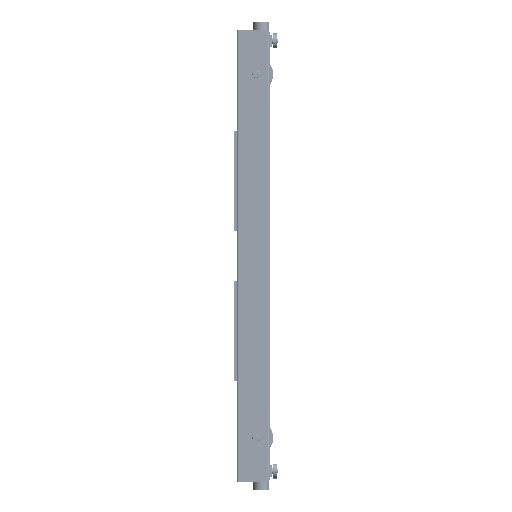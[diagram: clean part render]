
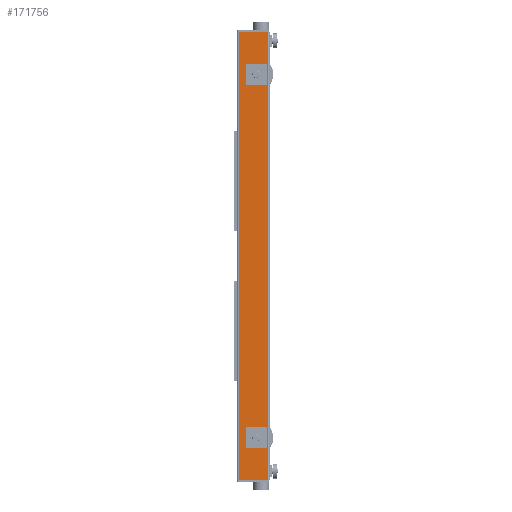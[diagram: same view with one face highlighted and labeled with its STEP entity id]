
A CAD part, left-side view. The second image highlights one B-rep face of the part: STEP entity #171756.
In plain terms, the highlighted planar face has unit normal (-1, 0, 0).
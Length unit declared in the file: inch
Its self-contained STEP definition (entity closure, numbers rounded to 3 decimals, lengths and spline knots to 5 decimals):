
#5124 = DIRECTION ( 'NONE',  ( 0., 1., 0. ) ) ;
#9245 = CIRCLE ( 'NONE', #104081, 0.886 ) ;
#10190 = VECTOR ( 'NONE', #168200, 39.37008 ) ;
#12094 = DIRECTION ( 'NONE',  ( 1., 0., 0. ) ) ;
#12142 = CARTESIAN_POINT ( 'NONE',  ( 0., 7.5, -53.71875 ) ) ;
#17683 = DIRECTION ( 'NONE',  ( 1., 0., 0. ) ) ;
#20073 = CARTESIAN_POINT ( 'NONE',  ( 0., 3.335, -43.49975 ) ) ;
#20726 = LINE ( 'NONE', #135683, #10190 ) ;
#21098 = ORIENTED_EDGE ( 'NONE', *, *, #39780, .T. ) ;
#22362 = DIRECTION ( 'NONE',  ( 0., 1., 0. ) ) ;
#22447 = VERTEX_POINT ( 'NONE', #189027 ) ;
#26988 = DIRECTION ( 'NONE',  ( 0., -1., 0. ) ) ;
#32001 = FACE_BOUND ( 'NONE', #126254, .T. ) ;
#33028 = CARTESIAN_POINT ( 'NONE',  ( 0., 3.335, 43.50075 ) ) ;
#38326 = CIRCLE ( 'NONE', #62780, 0.886 ) ;
#39780 = EDGE_CURVE ( 'NONE', #139356, #103491, #124187, .T. ) ;
#41830 = DIRECTION ( 'NONE',  ( 0., 1., 0. ) ) ;
#47339 = FACE_OUTER_BOUND ( 'NONE', #93374, .T. ) ;
#48298 = DIRECTION ( 'NONE',  ( 1., 0., 0. ) ) ;
#49064 = VECTOR ( 'NONE', #135744, 39.37008 ) ;
#50772 = VERTEX_POINT ( 'NONE', #103265 ) ;
#59323 = CARTESIAN_POINT ( 'NONE',  ( 0., 7.5, 53.71875 ) ) ;
#60269 = DIRECTION ( 'NONE',  ( 0., 0., -1. ) ) ;
#61201 = CARTESIAN_POINT ( 'NONE',  ( 0., 7.5, 53.71875 ) ) ;
#61673 = PLANE ( 'NONE',  #138771 ) ;
#62780 = AXIS2_PLACEMENT_3D ( 'NONE', #20073, #123538, #122604 ) ;
#63525 = ORIENTED_EDGE ( 'NONE', *, *, #184606, .T. ) ;
#63888 = CARTESIAN_POINT ( 'NONE',  ( 0., 3.335, -44.38575 ) ) ;
#73739 = LINE ( 'NONE', #61201, #158944 ) ;
#74768 = EDGE_CURVE ( 'NONE', #134100, #130265, #73739, .T. ) ;
#79786 = ORIENTED_EDGE ( 'NONE', *, *, #128891, .T. ) ;
#80468 = ORIENTED_EDGE ( 'NONE', *, *, #74768, .T. ) ;
#84566 = VERTEX_POINT ( 'NONE', #168369 ) ;
#89657 = ORIENTED_EDGE ( 'NONE', *, *, #147934, .T. ) ;
#93374 = EDGE_LOOP ( 'NONE', ( #63525, #154208, #115183, #80468 ) ) ;
#97902 = CARTESIAN_POINT ( 'NONE',  ( 0., 0.5, 53.71875 ) ) ;
#102870 = EDGE_CURVE ( 'NONE', #84566, #22447, #20726, .T. ) ;
#103265 = CARTESIAN_POINT ( 'NONE',  ( 0., 3.335, 44.38675 ) ) ;
#103491 = VERTEX_POINT ( 'NONE', #63888 ) ;
#104081 = AXIS2_PLACEMENT_3D ( 'NONE', #33028, #17683, #177618 ) ;
#104818 = CARTESIAN_POINT ( 'NONE',  ( 0., 0.5, 53.71875 ) ) ;
#109610 = CARTESIAN_POINT ( 'NONE',  ( 0., 3.335, -43.49975 ) ) ;
#113342 = EDGE_LOOP ( 'NONE', ( #79786, #21098 ) ) ;
#115183 = ORIENTED_EDGE ( 'NONE', *, *, #144594, .F. ) ;
#118038 = AXIS2_PLACEMENT_3D ( 'NONE', #109610, #167982, #22362 ) ;
#118676 = CIRCLE ( 'NONE', #170698, 0.886 ) ;
#122604 = DIRECTION ( 'NONE',  ( 0., 1., 0. ) ) ;
#123015 = VERTEX_POINT ( 'NONE', #182288 ) ;
#123538 = DIRECTION ( 'NONE',  ( 1., 0., 0. ) ) ;
#124187 = CIRCLE ( 'NONE', #118038, 0.886 ) ;
#126254 = EDGE_LOOP ( 'NONE', ( #178216, #89657 ) ) ;
#128891 = EDGE_CURVE ( 'NONE', #103491, #139356, #38326, .T. ) ;
#130265 = VERTEX_POINT ( 'NONE', #12142 ) ;
#134100 = VERTEX_POINT ( 'NONE', #59323 ) ;
#135683 = CARTESIAN_POINT ( 'NONE',  ( 0., 0.5, 53.71875 ) ) ;
#135744 = DIRECTION ( 'NONE',  ( 0., -1., 0. ) ) ;
#138771 = AXIS2_PLACEMENT_3D ( 'NONE', #104818, #48298, #5124 ) ;
#139356 = VERTEX_POINT ( 'NONE', #180461 ) ;
#139422 = EDGE_CURVE ( 'NONE', #123015, #50772, #9245, .T. ) ;
#140484 = CARTESIAN_POINT ( 'NONE',  ( 0., 3.335, 43.50075 ) ) ;
#144594 = EDGE_CURVE ( 'NONE', #134100, #84566, #170671, .T. ) ;
#147934 = EDGE_CURVE ( 'NONE', #50772, #123015, #118676, .T. ) ;
#148231 = CARTESIAN_POINT ( 'NONE',  ( 0., 0.5, -53.71875 ) ) ;
#148821 = FACE_BOUND ( 'NONE', #113342, .T. ) ;
#154208 = ORIENTED_EDGE ( 'NONE', *, *, #102870, .F. ) ;
#158944 = VECTOR ( 'NONE', #60269, 39.37008 ) ;
#167982 = DIRECTION ( 'NONE',  ( 1., 0., 0. ) ) ;
#168200 = DIRECTION ( 'NONE',  ( 0., 0., -1. ) ) ;
#168369 = CARTESIAN_POINT ( 'NONE',  ( 0., 0.5, 53.71875 ) ) ;
#170671 = LINE ( 'NONE', #97902, #185637 ) ;
#170698 = AXIS2_PLACEMENT_3D ( 'NONE', #140484, #12094, #41830 ) ;
#171756 = ADVANCED_FACE ( 'NONE', ( #148821, #32001, #47339 ), #61673, .F. ) ;
#177618 = DIRECTION ( 'NONE',  ( 0., 1., 0. ) ) ;
#177909 = LINE ( 'NONE', #148231, #49064 ) ;
#178216 = ORIENTED_EDGE ( 'NONE', *, *, #139422, .T. ) ;
#180461 = CARTESIAN_POINT ( 'NONE',  ( 0., 3.335, -42.61375 ) ) ;
#182288 = CARTESIAN_POINT ( 'NONE',  ( 0., 3.335, 42.61475 ) ) ;
#184606 = EDGE_CURVE ( 'NONE', #130265, #22447, #177909, .T. ) ;
#185637 = VECTOR ( 'NONE', #26988, 39.37008 ) ;
#189027 = CARTESIAN_POINT ( 'NONE',  ( 0., 0.5, -53.71875 ) ) ;
